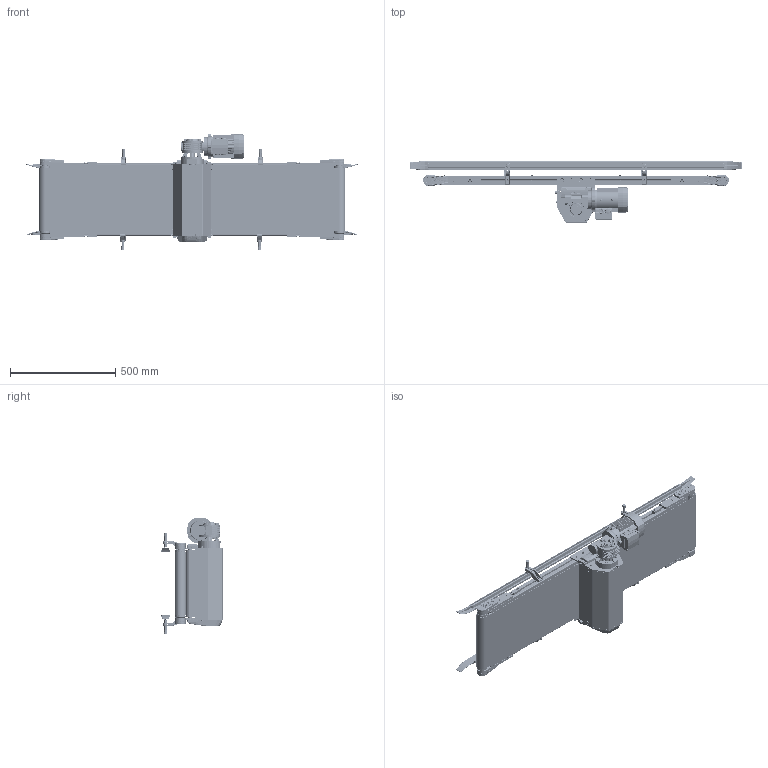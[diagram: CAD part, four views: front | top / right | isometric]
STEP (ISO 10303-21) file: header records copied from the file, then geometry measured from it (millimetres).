
FILE_DESCRIPTION (( 'STEP AP203' ), '1' );
FILE_NAME ('NASTRO_RETTILINEO_TAPPETO.step', '2026-04-28T06:52:13', ( 'Utente Windows' ), ( '' ), 'SwSTEP 2.0', 'SolidWorks 2024', '' );
FILE_SCHEMA (( 'CONFIG_CONTROL_DESIGN' ));
Length unit declared in the file: millimetre
Products named in the file (69): RULLO_50_Default<A macchina>; BLOCCO_TRAINO_50-95_CENTRALE; 084.302.017; VITE_DADO_M6X12; RONDELLE FASCIA LARGA UNI 6593_6.4x24 UNI 6593; DADI ESAGONALI NORMALI UNI 5588_M6 UNI 5588; RONDELLE UNI 6592_8.4x17 UNI 6592; 084.802.070; GRANI A PUNTA CONICA UNI 5927_M6x16 UNI 5927; 084.810.001; RULLO_95_Default<A macchina>; 084.802.004-1; SPONDA_Default<A macchina>; 084.802.020; 084.807.002_084.807.002; 084.712.005; 084.802.064; VITE_DADO_M5X12; LAMIERA_STANDARD; VITI TSEI UNI 5933_M4x10 UNI 5933; RONDELLE UNI 6592_6.4x12.5 UNI 6592; 084.711.006_L1; VITI TE UNI 5739_M8x12 UNI 5739; 084.812.003; 084.814.002-1; VITI TE UNI 5739_M6x50 UNI 5739; 084.711.005; BLOCCO_PERNO_50_CENTRALE_44; 084.711.010; VITI TE UNI 5739_M8x20 UNI 5739; TRAVERSA_50-95_CENTRALE_Default<A macchina>; 084.303.001; BLOCCO_RINVIO_50_STANDARD; TAPPETO_CENTRALE; 084.802.010; 084.811.004; 084.802.071; RULLO_TENSIONAMENTO_50-95_CENTRALE; BLOCCO_TRAINO_50-95_CENTRALE_44; CHIAVETTE_A 8x7x20 UNI 6604-69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
Assembly tree (153 placements, depth 3):
  NASTRO_RETTILINEO_TAPPETO
    TAPPETO_CENTRALE
    TELAIO_50_STANDARD_Default<A macchina>
    LAMIERA_STANDARD
    RULLO_50_Default<A macchina>  x2
    BLOCCO_PERNO_50_RINVIO  x4
      084.811.004
      084.810.001
    BLOCCO_RINVIO_50_STANDARD  x4
      084.807.002_084.807.002
      084.802.017_084.802.017
      084.802.008
      084.301.000 VITI ALUSIC_084.301.003
      084.302.000 DADI ALUSIC 13x13_084.302.004
      VITI TSEI UNI 5933_M4x10 UNI 5933
      084.802.071
    RULLO_95_Default<A macchina>
    BLOCCO_TRAINO_50-95_CENTRALE_44
      084.802.010
      084.802.021
      084.802.004-1  x2
      084.802.003
      VITI TSEI UNI 5933_M8x20 UNI 5933  x4
      084.302.017
      VITI TE UNI 5739_M6x50 UNI 5739  x2
      DADI ESAGONALI NORMALI UNI 5588_M6 UNI 5588  x2
      VITI TE UNI 5739_M6x16 UNI 5739  x2
      RONDELLE UNI 6592_6.4x12.5 UNI 6592  x2
      VITI TSEI UNI 5933_M6x12 UNI 5933  x4
      VITI TSEI UNI 5933_M8x16 UNI 5933  x3
      VITI TE UNI 5739_M8x20 UNI 5739  x4
      084.802.070
    BLOCCO_TRAINO_50-95_CENTRALE
      084.802.004-1  x2
      084.802.020
      084.802.003
      VITI TSEI UNI 5933_M8x20 UNI 5933  x4
      VITI TSEI UNI 5933_M6x12 UNI 5933  x6
      RONDELLE UNI 6592_8.4x17 UNI 6592  x2
      VITI TE UNI 5739_M8x12 UNI 5739  x2
      VITI TE UNI 5739_M6x16 UNI 5739  x2
      084.302.017
      RONDELLE UNI 6592_6.4x12.5 UNI 6592  x2
      VITI TE UNI 5739_M6x50 UNI 5739  x2
      DADI ESAGONALI NORMALI UNI 5588_M6 UNI 5588  x2
      084.802.064
    BLOCCO_PERNO_50_CENTRALE_44
      084.814.002-1
      084.810.003
      RONDELLE FASCIA LARGA UNI 6593_6.4x24 UNI 6593
      VITI TE UNI 5739_M6x12 UNI 5739
      CHIAVETTE_A 6x6x60 UNI 6604-69
      CHIAVETTE_A 8x7x20 UNI 6604-69
      30UNI7435
    BLOCCO_PERNO_95_RINVIO
      084.812.003
      084.810.003
      30UNI7435
    CARTER_50-95_CENTRALE
    RULLO_TENSIONAMENTO_50-95_CENTRALE  x2
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Bounding box: 1578.94 x 290.5 x 553.83 mm (x, y, z)
Volume: 12276705.8 mm3; surface area: 7970320.7 mm2
Topology: 249 solids, 260 shells, 11108 faces, 27968 edges, 17572 vertices
Faces by surface type: plane 4722, cylinder 3304, cone 1297, bspline 1082, torus 568, sphere 135
Entity records: 200889 total; most frequent: CARTESIAN_POINT 68596, ORIENTED_EDGE 26930, DIRECTION 24179, EDGE_CURVE 13465, AXIS2_PLACEMENT_3D 8811, VERTEX_POINT 8591, LINE 6557, VECTOR 6557
